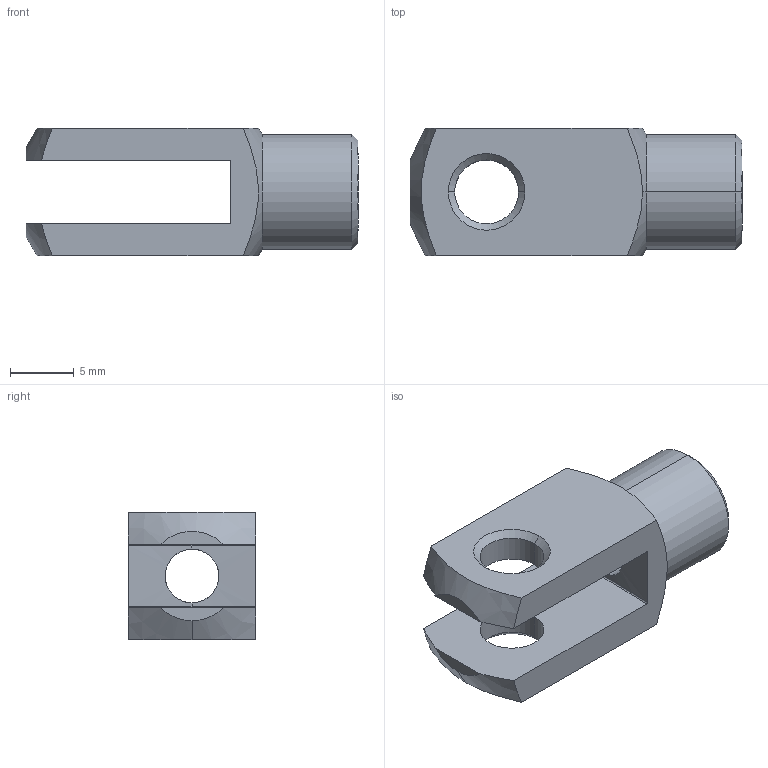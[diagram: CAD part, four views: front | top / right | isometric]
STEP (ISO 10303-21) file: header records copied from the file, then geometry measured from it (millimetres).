
FILE_DESCRIPTION (( 'STEP AP214' ), '1' );
FILE_NAME ('11.G510.STEP', '2017-10-30T08:36:47', ( '' ), ( '' ), 'SwSTEP 2.0', 'SolidWorks 2016', '' );
FILE_SCHEMA (( 'AUTOMOTIVE_DESIGN' ));
Length unit declared in the file: millimetre
Products named in the file (1): 11.G510
Bounding box: 26 x 10 x 10 mm (x, y, z)
Volume: 1221.7 mm3; surface area: 1328.5 mm2
Topology: 1 solids, 1 shells, 35 faces, 91 edges, 57 vertices
Faces by surface type: cone 13, cylinder 10, plane 9, torus 3
Entity records: 1295 total; most frequent: CARTESIAN_POINT 407, ORIENTED_EDGE 182, DIRECTION 175, EDGE_CURVE 91, AXIS2_PLACEMENT_3D 71, VERTEX_POINT 57, EDGE_LOOP 40, ADVANCED_FACE 35
